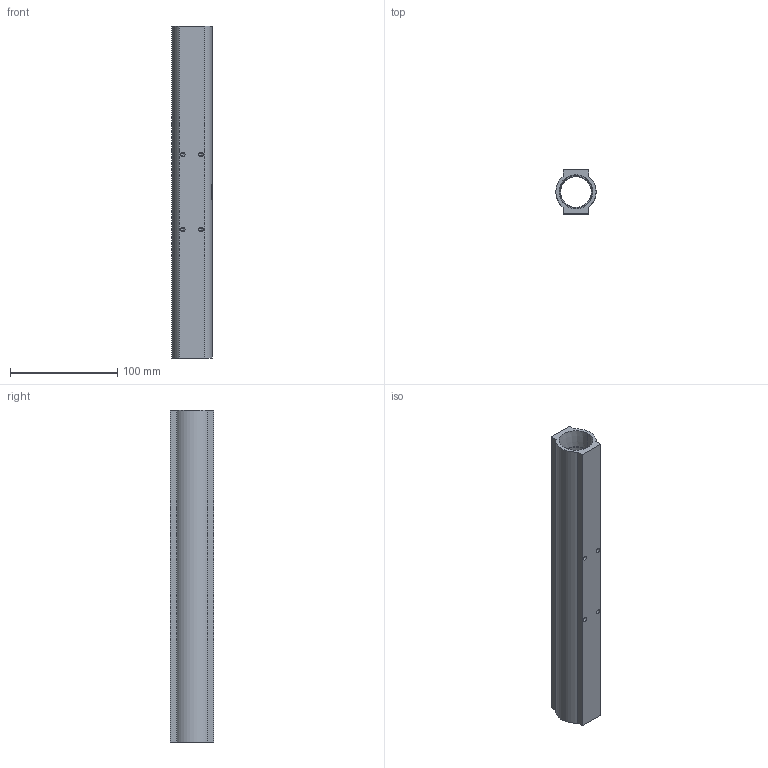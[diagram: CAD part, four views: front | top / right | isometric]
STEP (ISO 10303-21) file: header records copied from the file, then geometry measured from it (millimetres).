
FILE_DESCRIPTION (( 'STEP AP214' ), '1' );
FILE_NAME ('BWM6816R.STEP', '2022-03-15T04:41:43', ( '' ), ( '' ), 'SwSTEP 2.0', 'SolidWorks 2020', '' );
FILE_SCHEMA (( 'AUTOMOTIVE_DESIGN' ));
Length unit declared in the file: millimetre
Products named in the file (1): BWM6816R
Bounding box: 37.44 x 41 x 310 mm (x, y, z)
Volume: 167913.1 mm3; surface area: 71860.3 mm2
Topology: 1 solids, 1 shells, 212 faces, 565 edges, 370 vertices
Faces by surface type: plane 94, bspline 52, cylinder 42, cone 24
Entity records: 11870 total; most frequent: CARTESIAN_POINT 5226, ORIENTED_EDGE 1114, DIRECTION 719, EDGE_CURVE 557, VERTEX_POINT 370, VECTOR 273, LINE 273, EDGE_LOOP 249
